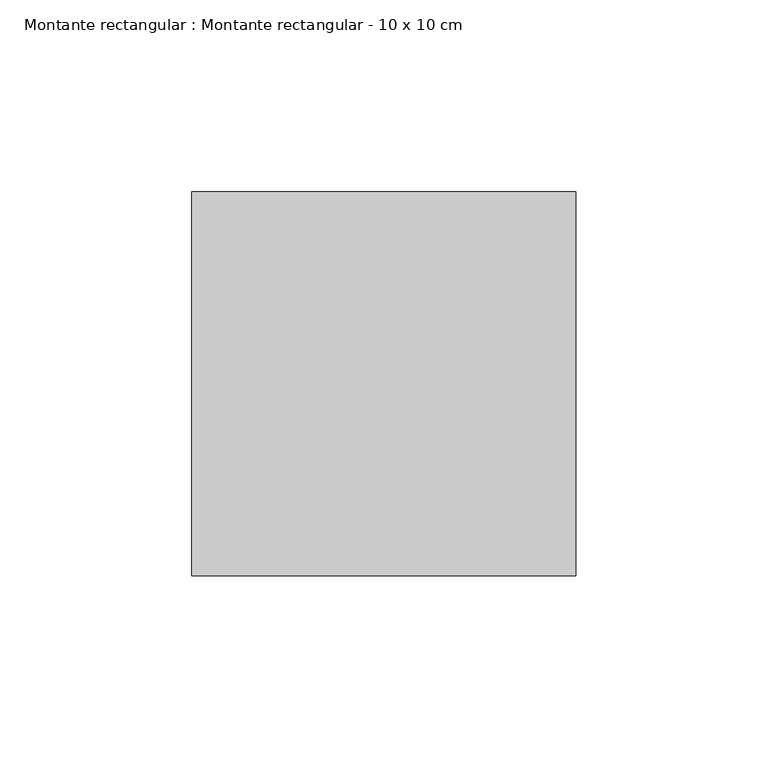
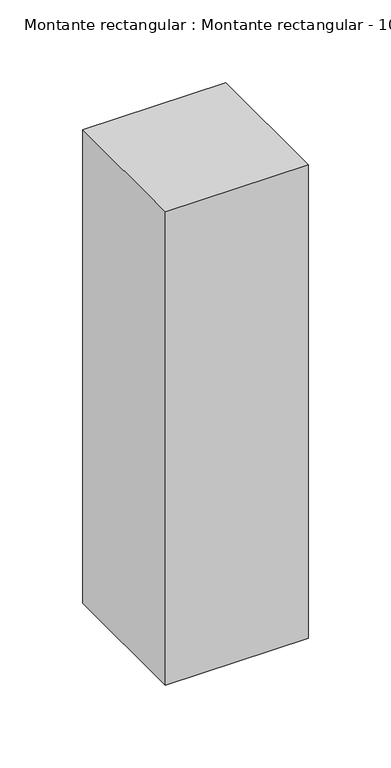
"""IFC4 building model written with IfcOpenShell, lengths in millimetres: member geometry, Montante rectangular : Montante rectangular - 10 x 10 cm."""

from ifc_helpers import new_model, si_unit, frame, origin, place, context, project, spatial, polyline, outline, extrude, source, transform, mapped, element, save


def montante_rectangular_montante_rectangular_10_x_10_cm_71f1473e(model_context):
    return source(origin(), model_context, "Body", "SweptSolid", [
        extrude(outline(polyline([(-100.0, -50.0), (-100.0, 50.0), (0.0, 50.0), (0.0, -50.0), (-100.0, -50.0)])), frame((0.0, 0.0, -350.0), z_axis=(0.0, 0.0, 1.0), x_axis=(1.0, 0.0, 0.0)), (0.0, 0.0, 1.0), 350.0),
    ])


if __name__ == "__main__":
    model = new_model("IFC4")
    model_context = context("Model", 3, world=origin())
    ifc_project = project(units=[si_unit("LENGTHUNIT", "METRE", prefix="MILLI")], contexts=[model_context])
    site = spatial("IfcSite", under=ifc_project)
    building = spatial("IfcBuilding", under=site)
    placement = place(None, origin())
    montante_rectangular_montante_rectangular_10_x_10_cm_shape = montante_rectangular_montante_rectangular_10_x_10_cm_71f1473e(model_context)
    element("IfcMember", 1, ObjectType="Montante rectangular : Montante rectangular - 10 x 10 cm", at=placement, inside=building, context=model_context, shape_type="MappedRepresentation", body=[
        mapped(montante_rectangular_montante_rectangular_10_x_10_cm_shape, transform((0.0, 0.0, 0.0), x_axis=(1.0, 0.0, 0.0), y_axis=(0.0, 1.0, 0.0), z_axis=(0.0, 0.0, 1.0))),
    ])
    save(model, "model.ifc")
